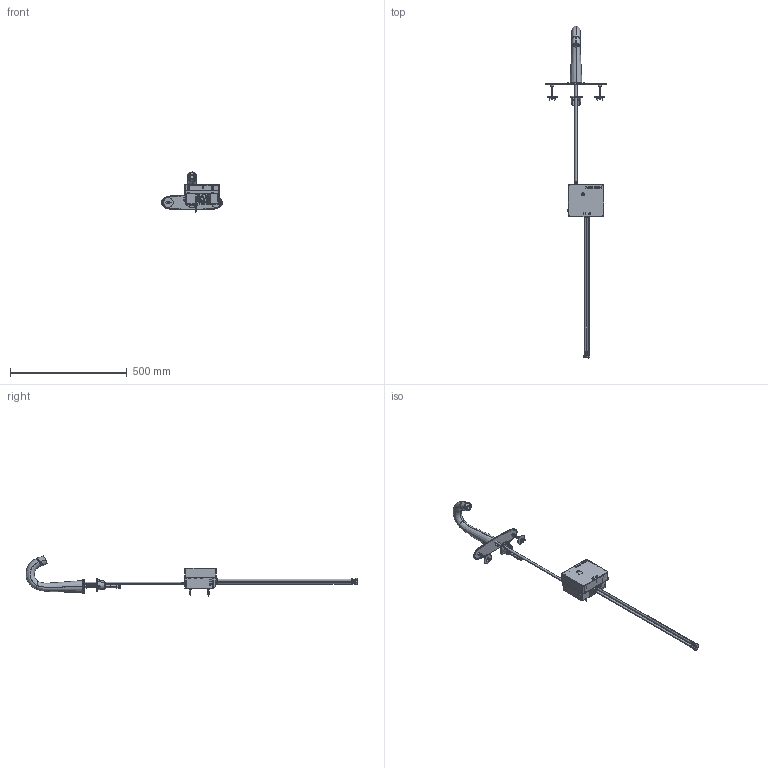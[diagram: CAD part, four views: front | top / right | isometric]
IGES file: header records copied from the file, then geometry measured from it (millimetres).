
Start section:  PTC IGES file: eq-c13a-12abcp_sw0001.igs
Global section: file name: eq-c13a-12abcp_sw0001.igs; native system: Creo Parametric by Parametric Technology Corporation; preprocessor: 2013050; author: jrodriguez; organization: Unknown; date: 20140919.153715; units: inch
Bounding box: 259.04 x 1420.18 x 171.27 mm (x, y, z)
Surface area: 488203.1 mm2 (no closed solid volume)
Topology: 0 solids, 0 shells, 1936 faces, 18704 edges, 26162 vertices
Faces by surface type: bspline 1039, revolution 871, extrusion 26
